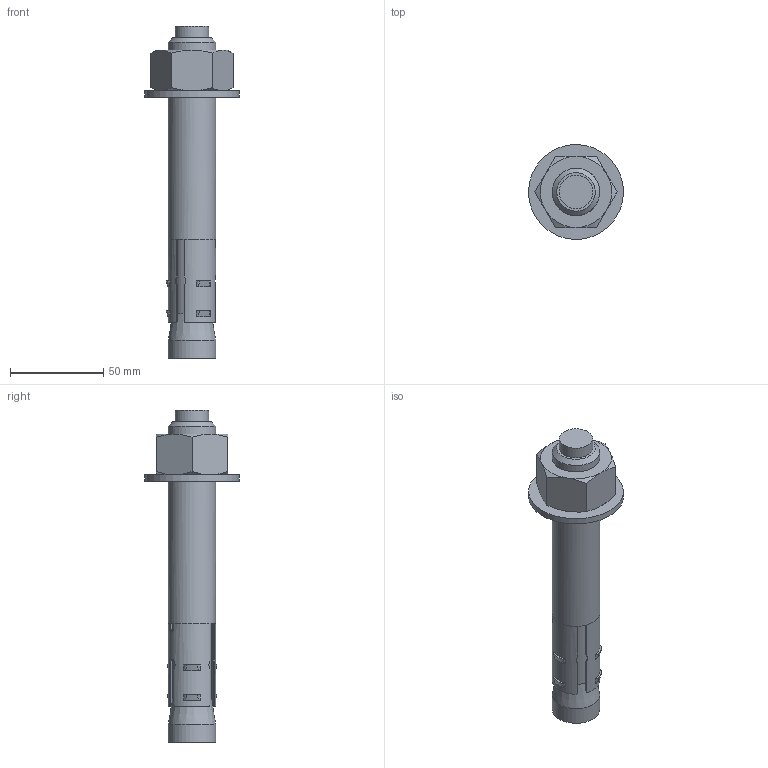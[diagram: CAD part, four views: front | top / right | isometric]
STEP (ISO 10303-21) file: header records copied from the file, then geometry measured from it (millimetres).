
FILE_DESCRIPTION(/* description */ (''),/* implementation_level */ '2;1');
FILE_NAME(/* name */ 'C:\001_Work\Designs\SAS\SAS-1.000 x 7.000 ANCHOR.stp',/* time_stamp */ '2015-10-10T16:05:24-04:00',/* author */ ('rramoutar'),/* organization */ ('Mason Industries Inc.'),/* preprocessor_version */ 'ST-DEVELOPER v15.6',/* originating_system */ 'Autodesk Inventor 2015',/* authorisation */ '');
FILE_SCHEMA (('AUTOMOTIVE_DESIGN { 1 0 10303 214 3 1 1 }'));
Length unit declared in the file: inch
Products named in the file (1): SAS-1.000 x 7.000 ANCHOR
Bounding box: 50.73 x 50.73 x 177.8 mm (x, y, z)
Volume: 103817.1 mm3; surface area: 25675.8 mm2
Topology: 1 solids, 1 shells, 96 faces, 239 edges, 153 vertices
Faces by surface type: plane 41, cone 22, cylinder 21, bspline 12
Full cylindrical faces by diameter (mm): 18.034 x1, 20.637 x1, 25.4 x3, 26.975 x1, 50.8 x1
Entity records: 3671 total; most frequent: CARTESIAN_POINT 1484, ORIENTED_EDGE 448, DIRECTION 378, EDGE_CURVE 224, AXIS2_PLACEMENT_3D 153, VERTEX_POINT 149, EDGE_LOOP 119, STYLED_ITEM 97
